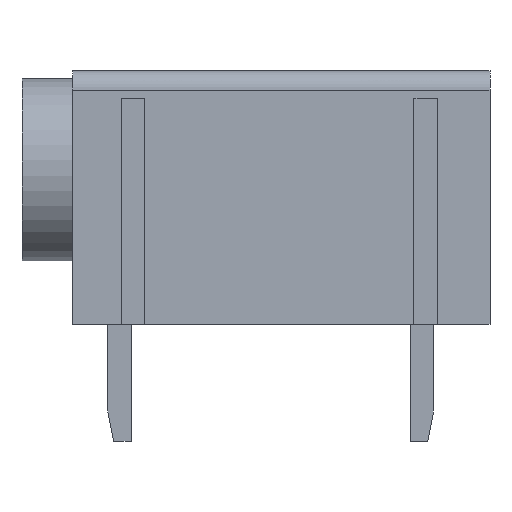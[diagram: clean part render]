
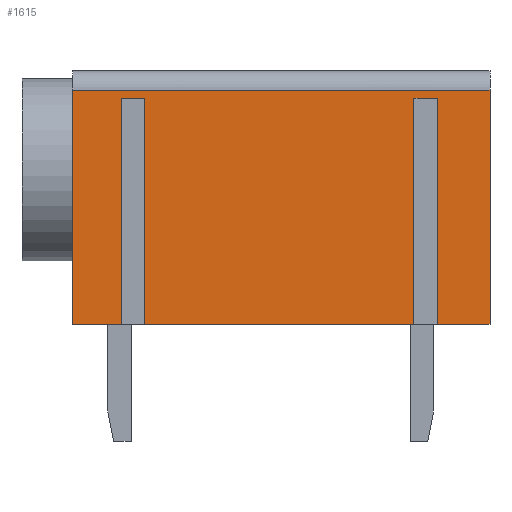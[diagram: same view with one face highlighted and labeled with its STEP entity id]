
A CAD part, left-side view. The second image highlights one B-rep face of the part: STEP entity #1615.
In plain terms, the highlighted planar face has unit normal (-1, 0, 0).
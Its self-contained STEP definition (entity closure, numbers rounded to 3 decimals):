
#156=ORIENTED_EDGE('',*,*,#439,.T.);
#157=ORIENTED_EDGE('',*,*,#409,.T.);
#158=ORIENTED_EDGE('',*,*,#405,.F.);
#159=ORIENTED_EDGE('',*,*,#412,.F.);
#160=ORIENTED_EDGE('',*,*,#438,.T.);
#161=ORIENTED_EDGE('',*,*,#460,.T.);
#162=ORIENTED_EDGE('',*,*,#468,.T.);
#163=ORIENTED_EDGE('',*,*,#469,.F.);
#164=ORIENTED_EDGE('',*,*,#443,.T.);
#165=ORIENTED_EDGE('',*,*,#470,.T.);
#166=ORIENTED_EDGE('',*,*,#471,.F.);
#167=ORIENTED_EDGE('',*,*,#472,.F.);
#405=EDGE_CURVE('',#569,#566,#677,.T.);
#409=EDGE_CURVE('',#572,#566,#681,.T.);
#412=EDGE_CURVE('',#573,#569,#684,.T.);
#438=EDGE_CURVE('',#573,#598,#710,.T.);
#439=EDGE_CURVE('',#599,#572,#711,.T.);
#443=EDGE_CURVE('',#603,#602,#715,.T.);
#460=EDGE_CURVE('',#598,#617,#727,.T.);
#468=EDGE_CURVE('',#617,#621,#734,.F.);
#469=EDGE_CURVE('',#603,#621,#735,.T.);
#470=EDGE_CURVE('',#602,#622,#736,.T.);
#471=EDGE_CURVE('',#623,#622,#737,.T.);
#472=EDGE_CURVE('',#599,#623,#738,.T.);
#566=VERTEX_POINT('',#2115);
#569=VERTEX_POINT('',#2120);
#572=VERTEX_POINT('',#2130);
#573=VERTEX_POINT('',#2134);
#598=VERTEX_POINT('',#2186);
#599=VERTEX_POINT('',#2189);
#602=VERTEX_POINT('',#2195);
#603=VERTEX_POINT('',#2197);
#617=VERTEX_POINT('',#2230);
#621=VERTEX_POINT('',#2246);
#622=VERTEX_POINT('',#2249);
#623=VERTEX_POINT('',#2251);
#677=LINE('',#2121,#821);
#681=LINE('',#2129,#825);
#684=LINE('',#2135,#828);
#710=LINE('',#2187,#854);
#711=LINE('',#2188,#855);
#715=LINE('',#2196,#859);
#727=LINE('',#2231,#871);
#734=LINE('',#2245,#878);
#735=LINE('',#2247,#879);
#736=LINE('',#2248,#880);
#737=LINE('',#2250,#881);
#738=LINE('',#2252,#882);
#821=VECTOR('',#1794,1000.);
#825=VECTOR('',#1802,1000.);
#828=VECTOR('',#1807,1000.);
#854=VECTOR('',#1835,1000.);
#855=VECTOR('',#1836,1000.);
#859=VECTOR('',#1840,1000.);
#871=VECTOR('',#1868,1000.);
#878=VECTOR('',#1883,1000.);
#879=VECTOR('',#1884,1000.);
#880=VECTOR('',#1885,1000.);
#881=VECTOR('',#1886,1000.);
#882=VECTOR('',#1887,1000.);
#965=EDGE_LOOP('',(#156,#157,#158,#159,#160,#161,#162,#163,#164,#165,#166,
#167));
#1039=FACE_BOUND('',#965,.T.);
#1109=PLANE('',#1696);
#1615=ADVANCED_FACE('',(#1039),#1109,.F.);
#1696=AXIS2_PLACEMENT_3D('',#2244,#1881,#1882);
#1794=DIRECTION('',(0.,1.,0.));
#1802=DIRECTION('',(0.,0.,1.));
#1807=DIRECTION('',(0.,0.,1.));
#1835=DIRECTION('',(0.,-1.,0.));
#1836=DIRECTION('',(0.,-1.,0.));
#1840=DIRECTION('',(0.,-1.,0.));
#1868=DIRECTION('',(0.,0.,1.));
#1881=DIRECTION('',(1.,0.,0.));
#1882=DIRECTION('',(0.,0.,-1.));
#1883=DIRECTION('',(0.,-1.,0.));
#1884=DIRECTION('',(0.,0.,1.));
#1885=DIRECTION('',(0.,0.,1.));
#1886=DIRECTION('',(0.,1.,0.));
#1887=DIRECTION('',(0.,0.,1.));
#2115=CARTESIAN_POINT('',(-5.05,-6.8,5.099));
#2120=CARTESIAN_POINT('',(-5.05,-8.,5.099));
#2121=CARTESIAN_POINT('',(-5.05,10.7,5.099));
#2129=CARTESIAN_POINT('',(-5.05,-6.8,-6.5));
#2130=CARTESIAN_POINT('',(-5.05,-6.8,-6.5));
#2134=CARTESIAN_POINT('',(-5.05,-8.,-6.5));
#2135=CARTESIAN_POINT('',(-5.05,-8.,-6.5));
#2186=CARTESIAN_POINT('',(-5.05,-10.7,-6.5));
#2187=CARTESIAN_POINT('',(-5.05,10.7,-6.5));
#2188=CARTESIAN_POINT('',(-5.05,10.7,-6.5));
#2189=CARTESIAN_POINT('',(-5.05,7.,-6.5));
#2195=CARTESIAN_POINT('',(-5.05,8.2,-6.5));
#2196=CARTESIAN_POINT('',(-5.05,10.7,-6.5));
#2197=CARTESIAN_POINT('',(-5.05,10.7,-6.5));
#2230=CARTESIAN_POINT('',(-5.05,-10.7,5.5));
#2231=CARTESIAN_POINT('',(-5.05,-10.7,-6.5));
#2244=CARTESIAN_POINT('',(-5.05,10.7,-6.5));
#2245=CARTESIAN_POINT('',(-5.05,10.7,5.5));
#2246=CARTESIAN_POINT('',(-5.05,10.7,5.5));
#2247=CARTESIAN_POINT('',(-5.05,10.7,-6.5));
#2248=CARTESIAN_POINT('',(-5.05,8.2,-6.5));
#2249=CARTESIAN_POINT('',(-5.05,8.2,5.099));
#2250=CARTESIAN_POINT('',(-5.05,7.,5.099));
#2251=CARTESIAN_POINT('',(-5.05,7.,5.099));
#2252=CARTESIAN_POINT('',(-5.05,7.,-6.5));
